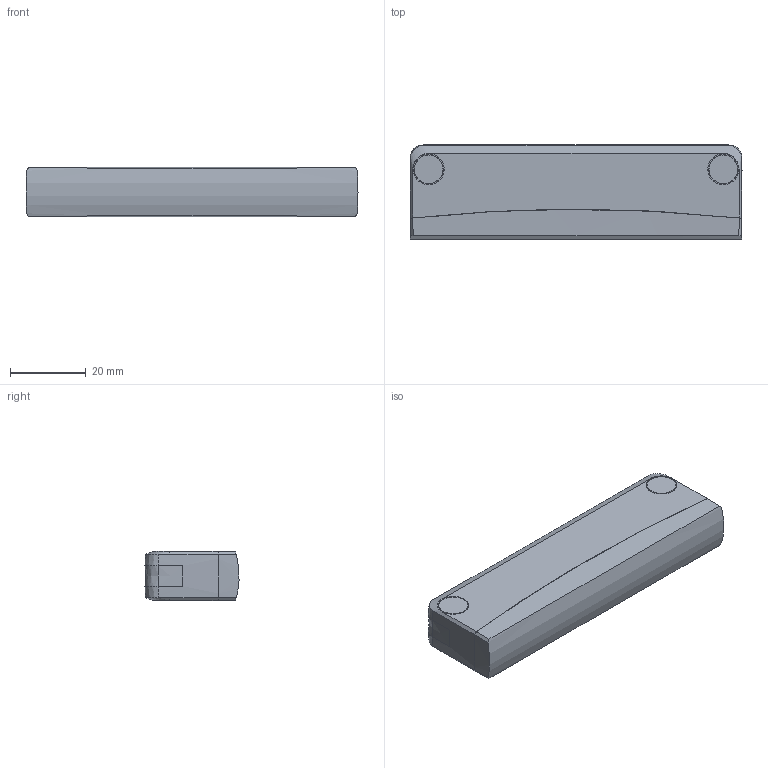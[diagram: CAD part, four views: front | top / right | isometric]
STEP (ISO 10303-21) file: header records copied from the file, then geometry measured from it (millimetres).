
FILE_DESCRIPTION(/* description */ ('Katalogmodell Elobau'),/* implementation_level */ '2;1');
FILE_NAME(/* name */ 'Katalogdaten.stp',/* time_stamp */ '2014-11-03T09:37:01+01:00',/* author */ ('Elobau GmbH & Co. KG'),/* organization */ ('Elobau GmbH & Co. KG'),/* preprocessor_version */ 'ST-DEVELOPER v15',/* originating_system */ 'SIEMENS PLM Software NX 8.5',/* authorisation */ '');
FILE_SCHEMA (('AUTOMOTIVE_DESIGN { 1 0 10303 214 3 1 1 1 }'));
Length unit declared in the file: millimetre
Products named in the file (1): 165MBK..._A
Bounding box: 87.93 x 24.92 x 13.02 mm (x, y, z)
Volume: 26838.8 mm3; surface area: 7861.9 mm2
Topology: 5 solids, 5 shells, 63 faces, 163 edges, 118 vertices
Faces by surface type: cylinder 21, bspline 20, plane 18, cone 4
Full cylindrical faces by diameter (mm): 4.5 x2, 7.6 x4, 8.2 x4
Entity records: 3104 total; most frequent: CARTESIAN_POINT 1762, ORIENTED_EDGE 282, DIRECTION 164, EDGE_CURVE 141, VERTEX_POINT 110, B_SPLINE_CURVE_WITH_KNOTS 103, EDGE_LOOP 89, AXIS2_PLACEMENT_3D 82
